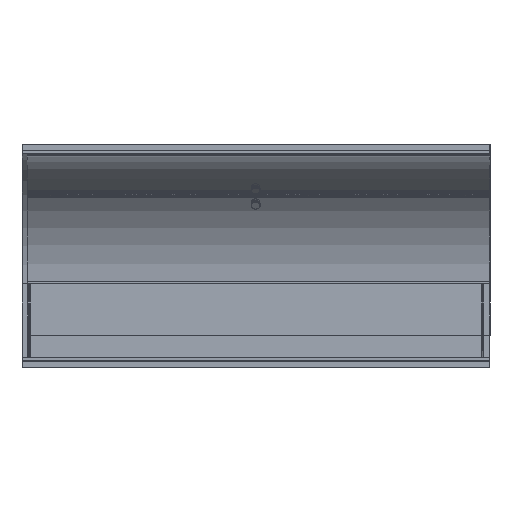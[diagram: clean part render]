
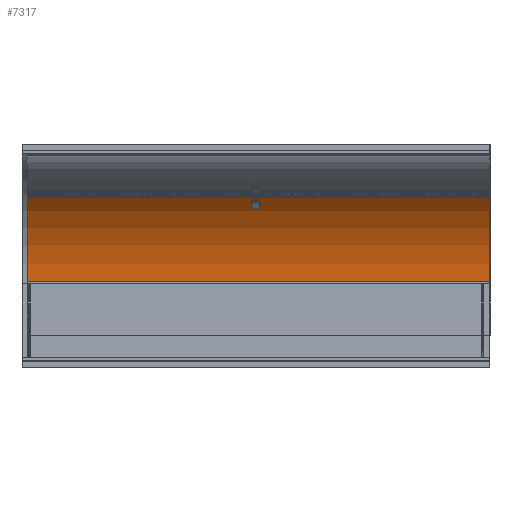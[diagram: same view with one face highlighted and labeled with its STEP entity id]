
A CAD part, left-side view. The second image highlights one B-rep face of the part: STEP entity #7317.
In plain terms, the highlighted cylindrical face has radius 506.463 mm (diameter 1012.93 mm), a partial arc.
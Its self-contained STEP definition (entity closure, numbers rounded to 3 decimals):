
#186=CIRCLE('',#7769,506.463);
#187=CIRCLE('',#7770,506.463);
#323=CYLINDRICAL_SURFACE('',#7768,506.463);
#412=FACE_OUTER_BOUND('',#804,.T.);
#804=EDGE_LOOP('',(#4790,#4791,#4792,#4793));
#1296=LINE('',#10284,#2106);
#1297=LINE('',#10290,#2107);
#2106=VECTOR('',#8453,10.);
#2107=VECTOR('',#8460,10.);
#2867=VERTEX_POINT('',#10278);
#2869=VERTEX_POINT('',#10282);
#2870=VERTEX_POINT('',#10286);
#2871=VERTEX_POINT('',#10288);
#3606=EDGE_CURVE('',#2867,#2869,#1296,.T.);
#3607=EDGE_CURVE('',#2867,#2870,#186,.T.);
#3608=EDGE_CURVE('',#2871,#2869,#187,.T.);
#3609=EDGE_CURVE('',#2870,#2871,#1297,.T.);
#4790=ORIENTED_EDGE('',*,*,#3607,.F.);
#4791=ORIENTED_EDGE('',*,*,#3606,.T.);
#4792=ORIENTED_EDGE('',*,*,#3608,.F.);
#4793=ORIENTED_EDGE('',*,*,#3609,.F.);
#7317=ADVANCED_FACE('',(#412),#323,.F.);
#7768=AXIS2_PLACEMENT_3D('',#10285,#8454,#8455);
#7769=AXIS2_PLACEMENT_3D('',#10287,#8456,#8457);
#7770=AXIS2_PLACEMENT_3D('',#10289,#8458,#8459);
#8453=DIRECTION('',(0.,-1.,0.));
#8454=DIRECTION('center_axis',(0.,-1.,0.));
#8455=DIRECTION('ref_axis',(0.722,0.,0.692));
#8456=DIRECTION('center_axis',(0.,-1.,0.));
#8457=DIRECTION('ref_axis',(0.722,0.,0.692));
#8458=DIRECTION('center_axis',(0.,1.,0.));
#8459=DIRECTION('ref_axis',(0.722,0.,0.692));
#8460=DIRECTION('',(0.,-1.,0.));
#10278=CARTESIAN_POINT('',(-313.481,1189.391,-342.653));
#10282=CARTESIAN_POINT('',(-313.481,-640.609,-342.653));
#10284=CARTESIAN_POINT('',(-313.481,1189.391,-342.653));
#10285=CARTESIAN_POINT('Origin',(-819.907,1189.391,-348.703));
#10286=CARTESIAN_POINT('',(-454.159,1189.391,1.629));
#10287=CARTESIAN_POINT('Origin',(-819.907,1189.391,-348.703));
#10288=CARTESIAN_POINT('',(-454.159,-640.609,1.629));
#10289=CARTESIAN_POINT('Origin',(-819.907,-640.609,-348.703));
#10290=CARTESIAN_POINT('',(-454.159,1189.391,1.629));
